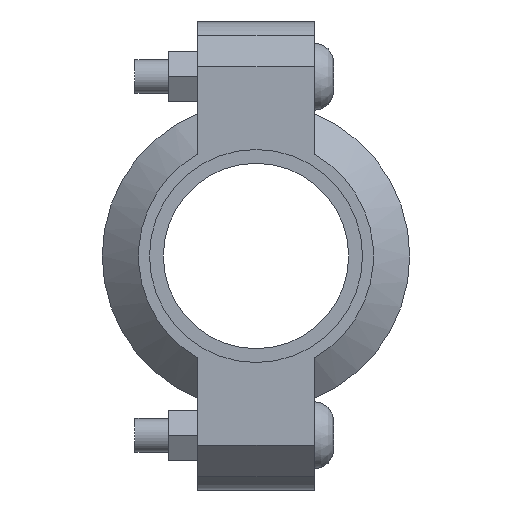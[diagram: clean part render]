
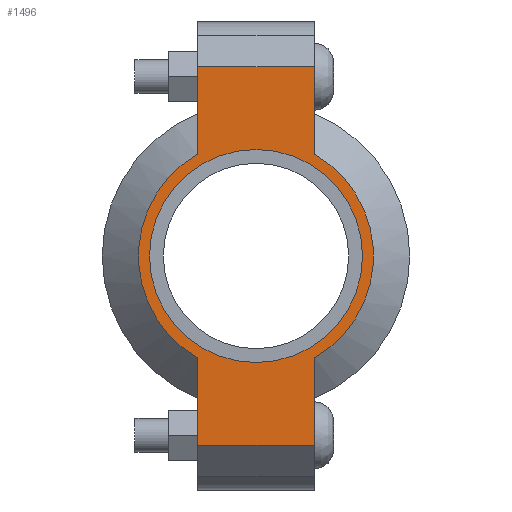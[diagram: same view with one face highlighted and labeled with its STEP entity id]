
A CAD part, left-side view. The second image highlights one B-rep face of the part: STEP entity #1496.
In plain terms, the highlighted planar face has unit normal (-1, 0, 0) as drawn and (0, 0, 1) by its records, which use the part's own axes.
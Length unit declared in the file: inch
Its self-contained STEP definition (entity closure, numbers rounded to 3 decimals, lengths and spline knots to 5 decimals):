
#176=LINE('',#2595,#267);
#184=LINE('',#2631,#275);
#191=LINE('',#2652,#282);
#200=LINE('',#2684,#291);
#201=LINE('',#2688,#292);
#202=LINE('',#2690,#293);
#267=VECTOR('',#2097,0.3937);
#275=VECTOR('',#2113,0.3937);
#282=VECTOR('',#2132,0.3937);
#291=VECTOR('',#2157,0.3937);
#292=VECTOR('',#2162,0.3937);
#293=VECTOR('',#2163,0.3937);
#345=FACE_BOUND('',#505,.T.);
#409=FACE_OUTER_BOUND('',#504,.T.);
#504=EDGE_LOOP('',(#1231,#1232,#1233,#1234,#1235,#1236,#1237,#1238));
#505=EDGE_LOOP('',(#1239));
#602=CIRCLE('',#1757,1.31);
#603=CIRCLE('',#1758,1.31);
#604=CIRCLE('',#1759,1.1875);
#707=VERTEX_POINT('',#2592);
#708=VERTEX_POINT('',#2594);
#719=VERTEX_POINT('',#2626);
#720=VERTEX_POINT('',#2630);
#727=VERTEX_POINT('',#2649);
#728=VERTEX_POINT('',#2651);
#738=VERTEX_POINT('',#2687);
#739=VERTEX_POINT('',#2689);
#740=VERTEX_POINT('',#2692);
#871=EDGE_CURVE('',#708,#707,#176,.T.);
#885=EDGE_CURVE('',#720,#719,#184,.T.);
#895=EDGE_CURVE('',#728,#727,#191,.T.);
#910=EDGE_CURVE('',#720,#707,#200,.T.);
#911=EDGE_CURVE('',#719,#728,#602,.T.);
#912=EDGE_CURVE('',#738,#727,#201,.T.);
#913=EDGE_CURVE('',#738,#739,#202,.T.);
#914=EDGE_CURVE('',#739,#708,#603,.T.);
#915=EDGE_CURVE('',#740,#740,#604,.T.);
#1231=ORIENTED_EDGE('',*,*,#910,.F.);
#1232=ORIENTED_EDGE('',*,*,#885,.T.);
#1233=ORIENTED_EDGE('',*,*,#911,.T.);
#1234=ORIENTED_EDGE('',*,*,#895,.T.);
#1235=ORIENTED_EDGE('',*,*,#912,.F.);
#1236=ORIENTED_EDGE('',*,*,#913,.T.);
#1237=ORIENTED_EDGE('',*,*,#914,.T.);
#1238=ORIENTED_EDGE('',*,*,#871,.T.);
#1239=ORIENTED_EDGE('',*,*,#915,.T.);
#1350=PLANE('',#1756);
#1496=ADVANCED_FACE('',(#409,#345),#1350,.T.);
#1756=AXIS2_PLACEMENT_3D('',#2685,#2158,#2159);
#1757=AXIS2_PLACEMENT_3D('',#2686,#2160,#2161);
#1758=AXIS2_PLACEMENT_3D('',#2691,#2164,#2165);
#1759=AXIS2_PLACEMENT_3D('',#2693,#2166,#2167);
#2097=DIRECTION('',(1.,0.,0.));
#2113=DIRECTION('',(-1.,0.,0.));
#2132=DIRECTION('',(-1.,0.,0.));
#2157=DIRECTION('',(0.,-1.,0.));
#2158=DIRECTION('center_axis',(0.,0.,1.));
#2159=DIRECTION('ref_axis',(-1.,0.,0.));
#2160=DIRECTION('center_axis',(0.,0.,1.));
#2161=DIRECTION('ref_axis',(1.,0.,0.));
#2162=DIRECTION('',(0.,1.,0.));
#2163=DIRECTION('',(1.,0.,0.));
#2164=DIRECTION('center_axis',(0.,0.,1.));
#2165=DIRECTION('ref_axis',(1.,0.,0.));
#2166=DIRECTION('center_axis',(0.,0.,-1.));
#2167=DIRECTION('ref_axis',(1.,0.,0.));
#2592=CARTESIAN_POINT('',(2.11,-0.65,0.94));
#2594=CARTESIAN_POINT('',(1.13737,-0.65,0.94));
#2595=CARTESIAN_POINT('',(2.61,-0.65,0.94));
#2626=CARTESIAN_POINT('',(1.13737,0.65,0.94));
#2630=CARTESIAN_POINT('',(2.11,0.65,0.94));
#2631=CARTESIAN_POINT('',(-2.61,0.65,0.94));
#2649=CARTESIAN_POINT('',(-2.11,0.65,0.94));
#2651=CARTESIAN_POINT('',(-1.13737,0.65,0.94));
#2652=CARTESIAN_POINT('',(-2.61,0.65,0.94));
#2684=CARTESIAN_POINT('',(2.11,-0.325,0.94));
#2685=CARTESIAN_POINT('Origin',(0.,0.,
0.94));
#2686=CARTESIAN_POINT('Origin',(0.,0.,0.94));
#2687=CARTESIAN_POINT('',(-2.11,-0.65,0.94));
#2688=CARTESIAN_POINT('',(-2.11,0.325,0.94));
#2689=CARTESIAN_POINT('',(-1.13737,-0.65,0.94));
#2690=CARTESIAN_POINT('',(2.61,-0.65,0.94));
#2691=CARTESIAN_POINT('Origin',(0.,0.,0.94));
#2692=CARTESIAN_POINT('',(-1.1875,0.,0.94));
#2693=CARTESIAN_POINT('Origin',(0.,0.,0.94));
